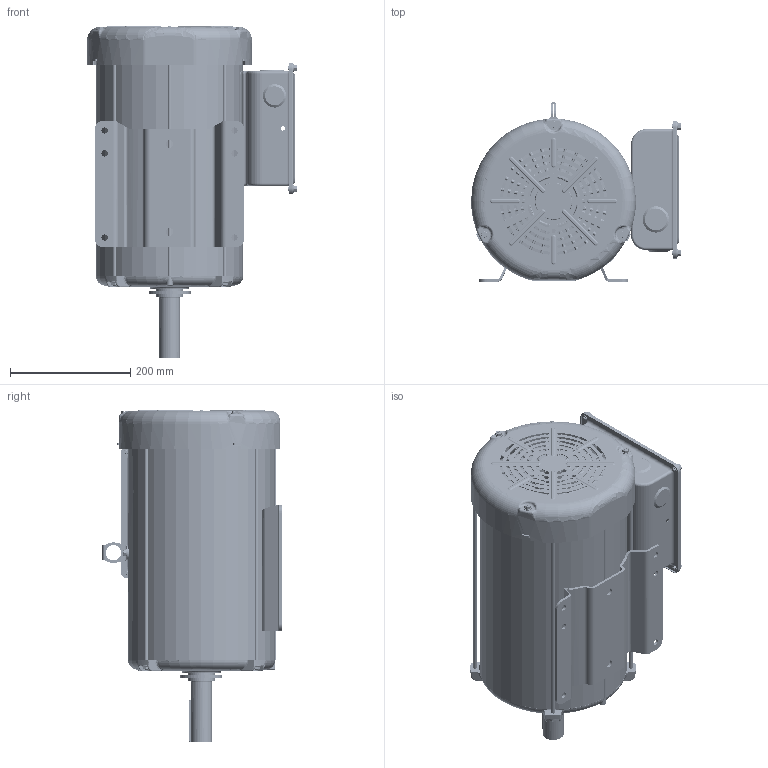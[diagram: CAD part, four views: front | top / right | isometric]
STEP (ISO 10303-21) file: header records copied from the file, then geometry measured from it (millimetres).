
FILE_DESCRIPTION (( 'STEP AP203' ), '1' );
FILE_NAME ('OL141348_RevA.STEP', '2017-11-16T11:33:06', ( '' ), ( '' ), 'SwSTEP 2.0', 'SolidWorks 2015', '' );
FILE_SCHEMA (( 'CONFIG_CONTROL_DESIGN' ));
Length unit declared in the file: inch
Products named in the file (1): OL141348_RevA
Bounding box: 348.56 x 298.15 x 551.56 mm (x, y, z)
Volume: 3256957.1 mm3; surface area: 1783774.8 mm2
Topology: 35 solids, 35 shells, 5955 faces, 14411 edges, 8549 vertices
Faces by surface type: bspline 1686, cylinder 1339, plane 1080, torus 848, cone 618, sphere 384
Entity records: 251249 total; most frequent: CARTESIAN_POINT 123652, ORIENTED_EDGE 28518, DIRECTION 24992, EDGE_CURVE 14259, AXIS2_PLACEMENT_3D 10808, VERTEX_POINT 8533, CIRCLE 6538, EDGE_LOOP 6330
